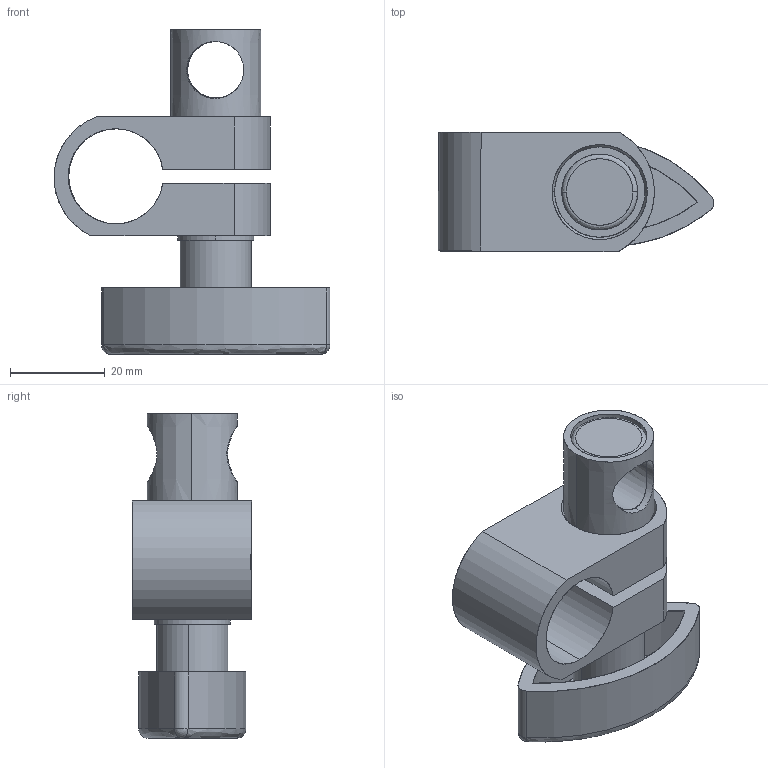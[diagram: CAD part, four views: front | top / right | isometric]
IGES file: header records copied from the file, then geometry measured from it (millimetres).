
Start section: SolidWorks IGES file using analytic representation for surfaces
Global section: file name: C:\Documents and Settings\CAD58\デスクトップ\CLIP\20-12CLIP\20-12CLIP.IGS; native system: SolidWorks 2006 by SolidWorks Corporation; preprocessor: SolidWorks 2006 by SolidWorks Corporation; author: CAD58; date: 090107.172622; units: millimetre
Bounding box: 58.08 x 25.16 x 68.4 mm (x, y, z)
Surface area: 14949.6 mm2 (no closed solid volume)
Topology: 0 solids, 0 shells, 51 faces, 1314 edges, 1312 vertices
Faces by surface type: revolution 35, bspline 16
